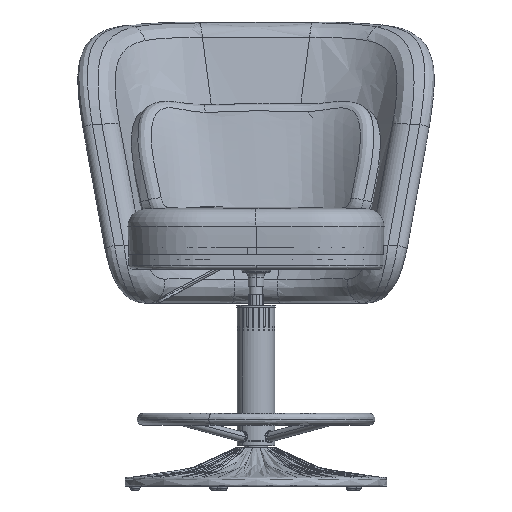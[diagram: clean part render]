
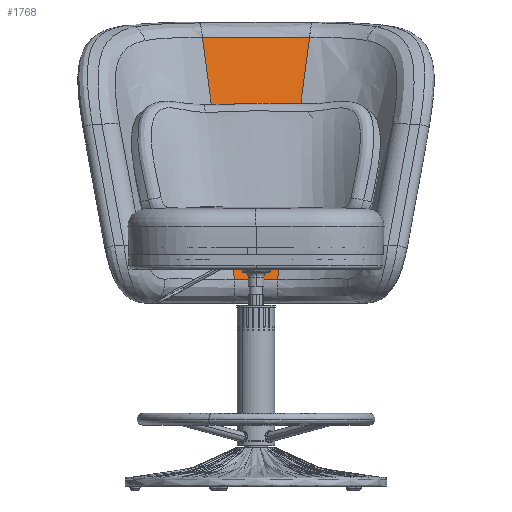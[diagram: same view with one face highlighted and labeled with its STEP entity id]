
A CAD part, front view. The second image highlights one B-rep face of the part: STEP entity #1768.
In plain terms, the highlighted free-form (B-spline) face has degree [3, 2] with [8, 3] control points.
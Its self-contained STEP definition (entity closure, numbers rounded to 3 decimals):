
#270=(
BOUNDED_CURVE()
B_SPLINE_CURVE(3,(#83651,#83652,#83653,#83654,#83655,#83656,#83657,#83658),
 .UNSPECIFIED.,.F.,.F.)
B_SPLINE_CURVE_WITH_KNOTS((4,2,2,4),(227.26,438.743,658.115,
751.613),.UNSPECIFIED.)
CURVE()
GEOMETRIC_REPRESENTATION_ITEM()
RATIONAL_B_SPLINE_CURVE((1.,1.,1.,1.,1.,1.,1.,1.))
REPRESENTATION_ITEM('')
);
#276=(
BOUNDED_CURVE()
B_SPLINE_CURVE(3,(#83858,#83859,#83860,#83861,#83862,#83863,#83864,#83865),
 .UNSPECIFIED.,.F.,.F.)
B_SPLINE_CURVE_WITH_KNOTS((4,2,2,4),(227.26,438.743,658.115,
751.613),.UNSPECIFIED.)
CURVE()
GEOMETRIC_REPRESENTATION_ITEM()
RATIONAL_B_SPLINE_CURVE((1.,1.,1.,1.,1.,1.,1.,1.))
REPRESENTATION_ITEM('')
);
#282=(
BOUNDED_CURVE()
B_SPLINE_CURVE(3,(#84074,#84075,#84076,#84077,#84078,#84079,#84080,#84081,
#84082,#84083,#84084),.UNSPECIFIED.,.F.,.F.)
B_SPLINE_CURVE_WITH_KNOTS((4,3,1,3,4),(-4.352,-4.351,
45.212,94.775,94.776),.UNSPECIFIED.)
CURVE()
GEOMETRIC_REPRESENTATION_ITEM()
RATIONAL_B_SPLINE_CURVE((1.,1.,1.,1.,1.,1.,1.,1.,1.,1.,1.))
REPRESENTATION_ITEM('')
);
#283=(
BOUNDED_CURVE()
B_SPLINE_CURVE(3,(#84093,#84094,#84095,#84096,#84097,#84098,#84099),
 .UNSPECIFIED.,.F.,.F.)
B_SPLINE_CURVE_WITH_KNOTS((4,3,4),(3.204,117.473,231.741),
 .UNSPECIFIED.)
CURVE()
GEOMETRIC_REPRESENTATION_ITEM()
RATIONAL_B_SPLINE_CURVE((1.,1.,1.,1.,1.,1.,1.))
REPRESENTATION_ITEM('')
);
#1521=(
BOUNDED_SURFACE()
B_SPLINE_SURFACE(3,2,((#78557,#78558,#78559),(#78560,#78561,#78562),(#78563,
#78564,#78565),(#78566,#78567,#78568),(#78569,#78570,#78571),(#78572,#78573,
#78574),(#78575,#78576,#78577),(#78578,#78579,#78580)),.UNSPECIFIED.,.F.,
 .F.,.F.)
B_SPLINE_SURFACE_WITH_KNOTS((4,2,2,4),(3,3),(0.,438.743,658.115,
877.485),(-283.646,0.283),.UNSPECIFIED.)
GEOMETRIC_REPRESENTATION_ITEM()
RATIONAL_B_SPLINE_SURFACE(((1.,0.999,1.),
(1.,0.997,1.),(1.,
0.995,1.),(1.,0.991,
1.),(1.,0.99,1.),
(1.,0.988,1.),(1.,
0.986,1.),(1.,0.985,1.)))
REPRESENTATION_ITEM('')
SURFACE()
);
#1768=ADVANCED_FACE('',(#4232),#1521,.T.);
#4232=FACE_OUTER_BOUND('',#6698,.T.);
#6698=EDGE_LOOP('',(#9383,#9384,#9385,#9386,#9387,#9388,#9389,#9390));
#9383=ORIENTED_EDGE('',*,*,#23034,.T.);
#9384=ORIENTED_EDGE('',*,*,#23027,.F.);
#9385=ORIENTED_EDGE('',*,*,#23037,.F.);
#9386=ORIENTED_EDGE('',*,*,#23038,.F.);
#9387=ORIENTED_EDGE('',*,*,#23036,.T.);
#9388=ORIENTED_EDGE('',*,*,#23021,.T.);
#9389=ORIENTED_EDGE('',*,*,#23033,.T.);
#9390=ORIENTED_EDGE('',*,*,#23035,.F.);
#23021=EDGE_CURVE('',#29863,#29859,#270,.T.);
#23027=EDGE_CURVE('',#29870,#29865,#276,.T.);
#23033=EDGE_CURVE('',#29859,#29871,#36498,.T.);
#23034=EDGE_CURVE('',#29872,#29865,#36499,.T.);
#23035=EDGE_CURVE('',#29872,#29871,#282,.T.);
#23036=EDGE_CURVE('',#29873,#29863,#36500,.T.);
#23037=EDGE_CURVE('',#29874,#29870,#36501,.T.);
#23038=EDGE_CURVE('',#29873,#29874,#283,.T.);
#29859=VERTEX_POINT('',#83587);
#29863=VERTEX_POINT('',#83591);
#29865=VERTEX_POINT('',#83593);
#29870=VERTEX_POINT('',#83598);
#29871=VERTEX_POINT('',#83599);
#29872=VERTEX_POINT('',#83600);
#29873=VERTEX_POINT('',#83601);
#29874=VERTEX_POINT('',#83602);
#36498=B_SPLINE_CURVE_WITH_KNOTS('',3,(#84066,#84067,#84068,#84069),
 .UNSPECIFIED.,.F.,.F.,(4,4),(-0.05,0.),.UNSPECIFIED.);
#36499=B_SPLINE_CURVE_WITH_KNOTS('',3,(#84070,#84071,#84072,#84073),
 .UNSPECIFIED.,.F.,.F.,(4,4),(0.,0.05),.UNSPECIFIED.);
#36500=B_SPLINE_CURVE_WITH_KNOTS('',3,(#84085,#84086,#84087,#84088),
 .UNSPECIFIED.,.F.,.F.,(4,4),(-0.041,0.),.UNSPECIFIED.);
#36501=B_SPLINE_CURVE_WITH_KNOTS('',3,(#84089,#84090,#84091,#84092),
 .UNSPECIFIED.,.F.,.F.,(4,4),(56.878,56.92),
 .UNSPECIFIED.);
#78557=CARTESIAN_POINT('',(-141.936,370.692,686.259));
#78558=CARTESIAN_POINT('',(-0.001,375.714,686.259));
#78559=CARTESIAN_POINT('',(141.934,370.692,686.259));
#78560=CARTESIAN_POINT('',(-123.116,340.324,544.433));
#78561=CARTESIAN_POINT('',(-0.001,345.719,546.118));
#78562=CARTESIAN_POINT('',(123.115,340.324,544.433));
#78563=CARTESIAN_POINT('',(-104.333,309.713,402.657));
#78564=CARTESIAN_POINT('',(-0.001,315.339,405.358));
#78565=CARTESIAN_POINT('',(104.331,309.713,402.657));
#78566=CARTESIAN_POINT('',(-76.13,263.428,190.078));
#78567=CARTESIAN_POINT('',(-0.001,269.123,193.042));
#78568=CARTESIAN_POINT('',(76.128,263.428,190.078));
#78569=CARTESIAN_POINT('',(-66.724,247.94,119.233));
#78570=CARTESIAN_POINT('',(-0.001,253.583,121.946));
#78571=CARTESIAN_POINT('',(66.723,247.94,119.233));
#78572=CARTESIAN_POINT('',(-47.893,216.848,-22.429));
#78573=CARTESIAN_POINT('',(-0.001,222.275,-20.729));
#78574=CARTESIAN_POINT('',(47.892,216.848,-22.429));
#78575=CARTESIAN_POINT('',(-38.467,201.243,-93.244));
#78576=CARTESIAN_POINT('',(-0.001,206.505,-92.308));
#78577=CARTESIAN_POINT('',(38.466,201.243,-93.244));
#78578=CARTESIAN_POINT('',(-29.022,185.573,-164.043));
#78579=CARTESIAN_POINT('',(-0.001,190.631,-164.043));
#78580=CARTESIAN_POINT('',(29.021,185.573,-164.043));
#83587=CARTESIAN_POINT('',(-45.174,212.494,-42.154));
#83591=CARTESIAN_POINT('',(-112.489,323.317,465.915));
#83593=CARTESIAN_POINT('',(45.173,212.494,-42.154));
#83598=CARTESIAN_POINT('',(112.487,323.317,465.915));
#83599=CARTESIAN_POINT('',(-45.168,212.483,-42.203));
#83600=CARTESIAN_POINT('',(45.166,212.483,-42.203));
#83601=CARTESIAN_POINT('',(-112.493,323.324,465.951));
#83602=CARTESIAN_POINT('',(112.492,323.324,465.951));
#83651=CARTESIAN_POINT('',(-112.489,323.317,465.915));
#83652=CARTESIAN_POINT('',(-103.446,308.557,397.579));
#83653=CARTESIAN_POINT('',(-94.406,293.741,329.255));
#83654=CARTESIAN_POINT('',(-75.979,263.439,190.084));
#83655=CARTESIAN_POINT('',(-66.593,247.951,119.238));
#83656=CARTESIAN_POINT('',(-53.191,225.779,18.217));
#83657=CARTESIAN_POINT('',(-49.184,219.142,-11.97));
#83658=CARTESIAN_POINT('',(-45.174,212.494,-42.154));
#83858=CARTESIAN_POINT('',(112.487,323.317,465.915));
#83859=CARTESIAN_POINT('',(103.445,308.557,397.579));
#83860=CARTESIAN_POINT('',(94.404,293.741,329.255));
#83861=CARTESIAN_POINT('',(75.978,263.439,190.084));
#83862=CARTESIAN_POINT('',(66.591,247.951,119.238));
#83863=CARTESIAN_POINT('',(53.189,225.779,18.217));
#83864=CARTESIAN_POINT('',(49.182,219.142,-11.97));
#83865=CARTESIAN_POINT('',(45.173,212.494,-42.154));
#84066=CARTESIAN_POINT('',(-45.174,212.494,-42.154));
#84067=CARTESIAN_POINT('',(-45.172,212.491,-42.17));
#84068=CARTESIAN_POINT('',(-45.17,212.487,-42.187));
#84069=CARTESIAN_POINT('',(-45.168,212.483,-42.203));
#84070=CARTESIAN_POINT('',(45.166,212.483,-42.203));
#84071=CARTESIAN_POINT('',(45.169,212.487,-42.187));
#84072=CARTESIAN_POINT('',(45.171,212.491,-42.17));
#84073=CARTESIAN_POINT('',(45.173,212.494,-42.154));
#84074=CARTESIAN_POINT('',(45.166,212.483,-42.203));
#84075=CARTESIAN_POINT('',(45.166,212.483,-42.203));
#84076=CARTESIAN_POINT('',(45.166,212.483,-42.203));
#84077=CARTESIAN_POINT('',(45.166,212.483,-42.203));
#84078=CARTESIAN_POINT('',(30.151,214.074,-42.529));
#84079=CARTESIAN_POINT('',(-0.001,215.677,-42.863));
#84080=CARTESIAN_POINT('',(-30.153,214.074,-42.529));
#84081=CARTESIAN_POINT('',(-45.168,212.483,-42.203));
#84082=CARTESIAN_POINT('',(-45.168,212.483,-42.203));
#84083=CARTESIAN_POINT('',(-45.168,212.483,-42.203));
#84084=CARTESIAN_POINT('',(-45.168,212.483,-42.203));
#84085=CARTESIAN_POINT('',(-112.493,323.324,465.951));
#84086=CARTESIAN_POINT('',(-112.492,323.322,465.939));
#84087=CARTESIAN_POINT('',(-112.49,323.319,465.927));
#84088=CARTESIAN_POINT('',(-112.489,323.317,465.915));
#84089=CARTESIAN_POINT('',(112.492,323.324,465.951));
#84090=CARTESIAN_POINT('',(112.49,323.322,465.939));
#84091=CARTESIAN_POINT('',(112.489,323.319,465.927));
#84092=CARTESIAN_POINT('',(112.487,323.317,465.915));
#84093=CARTESIAN_POINT('',(-112.493,323.324,465.951));
#84094=CARTESIAN_POINT('',(-75.019,325.011,466.04));
#84095=CARTESIAN_POINT('',(-37.509,325.855,466.077));
#84096=CARTESIAN_POINT('',(0.,325.855,466.077));
#84097=CARTESIAN_POINT('',(37.509,325.855,466.077));
#84098=CARTESIAN_POINT('',(75.018,325.011,466.04));
#84099=CARTESIAN_POINT('',(112.492,323.324,465.951));
